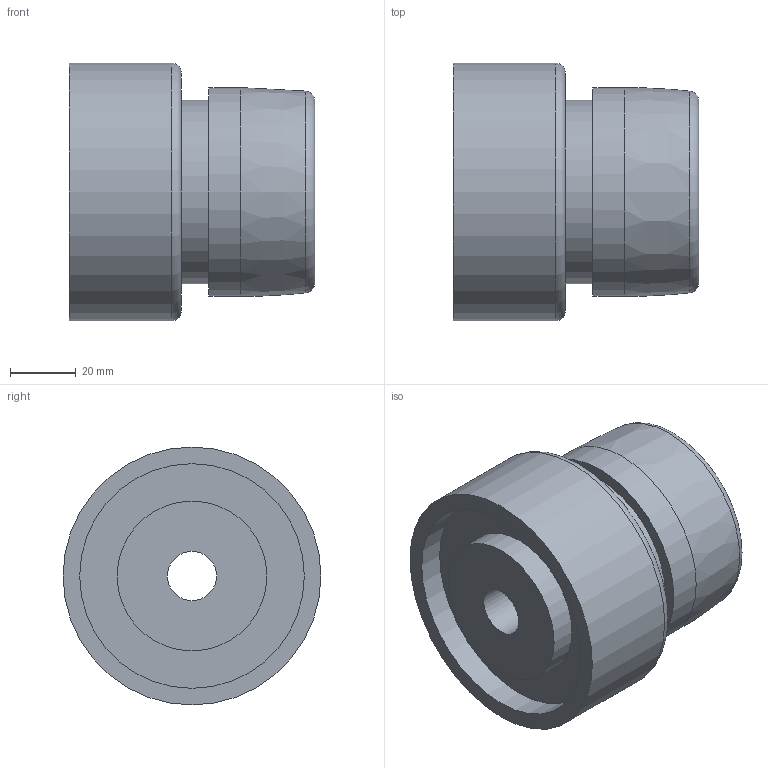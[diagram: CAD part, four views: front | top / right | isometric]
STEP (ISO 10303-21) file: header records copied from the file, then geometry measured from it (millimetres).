
FILE_DESCRIPTION(/* description */ (''),/* implementation_level */ '2;1');
FILE_NAME(/* name */ 'tmp_piston2.stp',/* time_stamp */ '2025-07-03T12:47:01+05:00',/* author */ (''),/* organization */ (''),/* preprocessor_version */ 'ST-DEVELOPER v18.102',/* originating_system */ 'SIEMENS PLM Software NX 2023',/* authorisation */ '');
FILE_SCHEMA (('AUTOMOTIVE_DESIGN { 1 0 10303 214 3 1 1 1 }'));
Length unit declared in the file: millimetre
Products named in the file (1): tmp_piston_objects
Bounding box: 75.02 x 78.74 x 78.74 mm (x, y, z)
Volume: 242319.4 mm3; surface area: 34604.5 mm2
Topology: 1 solids, 1 shells, 22 faces, 38 edges, 25 vertices
Faces by surface type: plane 9, cylinder 8, torus 2, bspline 1, revolution 1, cone 1
Full cylindrical faces by diameter (mm): 15 x1, 26.67 x1, 34.29 x1, 45.72 x1, 56.136 x1, 63.756 x1, 68.58 x1, 78.74 x1
Entity records: 508 total; most frequent: CARTESIAN_POINT 99, DIRECTION 87, FACE_BOUND 44, EDGE_LOOP 44, ORIENTED_EDGE 44, AXIS2_PLACEMENT_3D 43, ADVANCED_FACE 22, VERTEX_POINT 22
